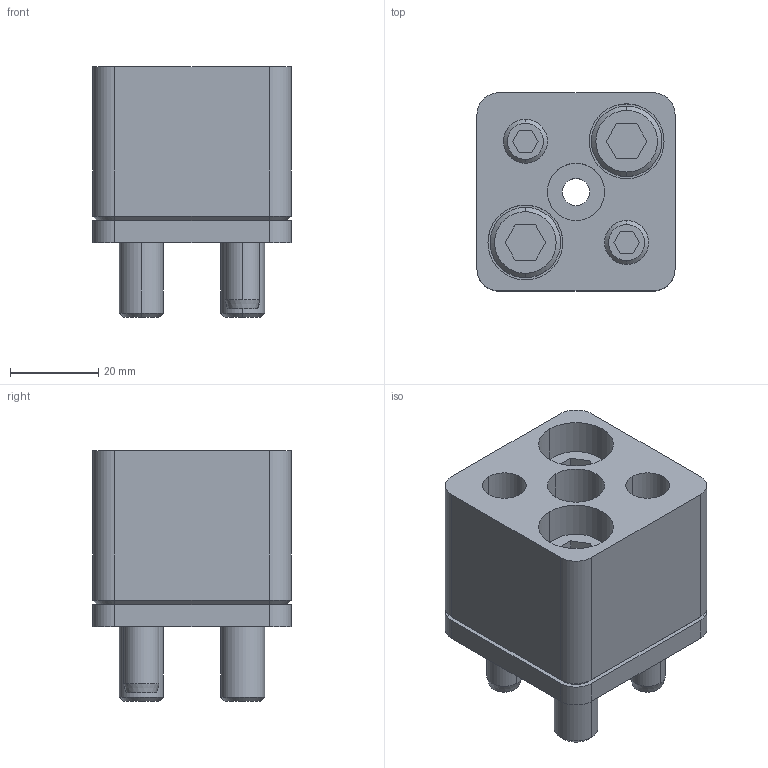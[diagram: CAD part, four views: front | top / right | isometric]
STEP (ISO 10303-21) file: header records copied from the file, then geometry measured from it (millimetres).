
FILE_DESCRIPTION(/* description */ (''),/* implementation_level */ '2;1');
FILE_NAME(/* name */ '3d_hsa-ap13_04177_r00.stp',/* time_stamp */ '2011-01-10T14:14:37+09:00',/* author */ ('MISUMI'),/* organization */ (''),/* preprocessor_version */ 'ST-DEVELOPER v11',/* originating_system */ 'UGS - NX 5.0',/* authorisation */ '');
FILE_SCHEMA (('CONFIG_CONTROL_DESIGN'));
Length unit declared in the file: millimetre
Products named in the file (1): 3d_hsa-ap13_04177_r00
Bounding box: 45 x 45 x 57 mm (x, y, z)
Volume: 69948.9 mm3; surface area: 28001.7 mm2
Topology: 8 solids, 8 shells, 163 faces, 364 edges, 232 vertices
Faces by surface type: plane 69, cylinder 64, cone 30
Entity records: 4686 total; most frequent: DIRECTION 840, CARTESIAN_POINT 814, ORIENTED_EDGE 728, EDGE_CURVE 364, AXIS2_PLACEMENT_3D 322, VERTEX_POINT 232, EDGE_LOOP 198, LINE 196
